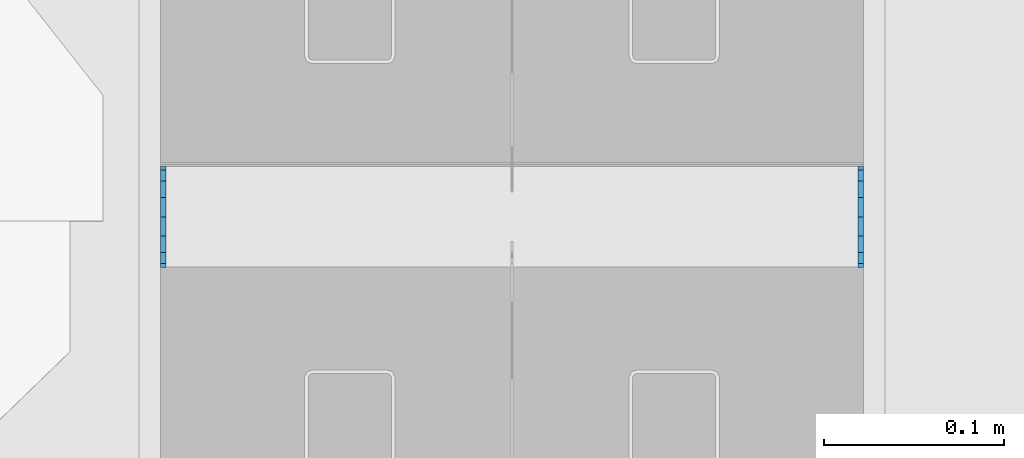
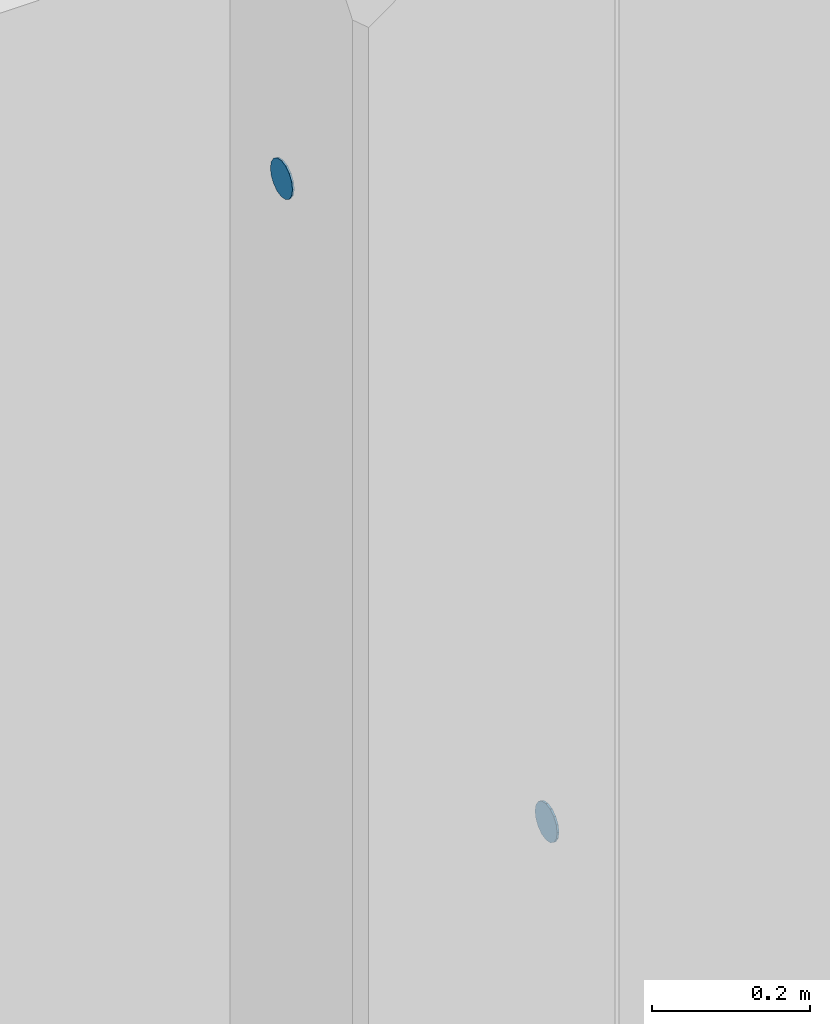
# One storey, part 80 of 186: 2 beams.
"""IFC4X3_ADD2 building model written with IfcOpenShell, lengths in millimetres."""

from ifc_helpers import new_model, si_unit, direction, frame, origin_with_axes, place, context, subcontext, project, spatial, indexed_curve, outline, extrude, material, element, save


model = new_model("IFC4X3_ADD2")

# Units and contexts
model_context = context("Model", 3, precision=1e-05, world=origin_with_axes(), true_north=direction((0.0, 1.0)))
body_context = subcontext(model_context, "Body", "Model", "MODEL_VIEW")
ifc_project = project(units=[si_unit("LENGTHUNIT", "METRE", prefix="MILLI"), si_unit("AREAUNIT", "SQUARE_METRE"), si_unit("VOLUMEUNIT", "CUBIC_METRE"), si_unit("PLANEANGLEUNIT", "RADIAN"), si_unit("TIMEUNIT", "SECOND"), si_unit("MASSUNIT", "GRAM")], contexts=[model_context])

# Site, building, storey
site_placement = place(None, origin_with_axes())
site = spatial("IfcSite", under=ifc_project, at=site_placement, Name="Site", CompositionType="ELEMENT")
building_placement = place(site_placement, origin_with_axes())
building = spatial("IfcBuilding", under=site, at=building_placement, Name="IFC Building Story")
storey_placement = place(building_placement, frame((0.0, 0.0, 4370.0), z_axis=(0.0, 0.0, 1.0), x_axis=(1.0, 0.0, 0.0)))
storey = spatial("IfcBuildingStorey", under=building, at=storey_placement, Name="ETAGE 10 (1)", Elevation=4370.0)

# Beams
ifc_material = material(Name="STEEL/Accessory 22919")
beam_1_placement = place(storey_placement, frame((40161.189, -8035.0, 840.0), z_axis=(-1.0, 0.0, 0.0), x_axis=(0.0, 0.5555702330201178, 0.8314696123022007)))
element("IfcBeam", 1, at=beam_1_placement, inside=storey, material=ifc_material, Name="TA4", ObjectType="D56", context=body_context, shape_type="SweptSolid", body=[
    extrude(outline(indexed_curve([(23.28114914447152, 15.55596652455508), (27.46198785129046, 5.462529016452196), (27.46198785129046, -5.462529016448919), (23.28114914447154, -15.55596652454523), (15.55596652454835, -23.28114914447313), (5.462529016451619, -27.46198785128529), (-5.462529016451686, -27.46198785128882), (-15.55596652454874, -23.28114914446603), (-23.2811491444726, -15.55596652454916), (-27.46198785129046, -5.462529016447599), (-27.46198785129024, 5.462529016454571), (-23.28114914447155, 15.55596652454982), (-15.55596652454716, 23.28114914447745), (-5.462529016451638, 27.46198785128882), (5.462529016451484, 27.46198785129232), (15.55596652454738, 23.28114914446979), (23.28114914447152, 15.55596652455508)])), origin_with_axes(), (0.0, 0.0, 1.0), 3.0),
])
beam_2_placement = place(storey_placement, frame((39774.18900000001, -8035.0, 1970.0), z_axis=(-1.0, 0.0, 0.0), x_axis=(0.0, 0.1950903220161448, 0.9807852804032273)))
element("IfcBeam", 2, at=beam_2_placement, inside=storey, material=ifc_material, Name="TA4", ObjectType="D56", context=body_context, shape_type="SweptSolid", body=[
    extrude(outline(indexed_curve([(23.28114914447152, 15.55596652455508), (27.46198785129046, 5.462529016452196), (27.46198785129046, -5.462529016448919), (23.28114914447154, -15.55596652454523), (15.55596652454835, -23.28114914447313), (5.462529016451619, -27.46198785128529), (-5.462529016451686, -27.46198785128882), (-15.55596652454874, -23.28114914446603), (-23.2811491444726, -15.55596652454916), (-27.46198785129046, -5.462529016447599), (-27.46198785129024, 5.462529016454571), (-23.28114914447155, 15.55596652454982), (-15.55596652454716, 23.28114914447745), (-5.462529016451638, 27.46198785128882), (5.462529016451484, 27.46198785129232), (15.55596652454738, 23.28114914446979), (23.28114914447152, 15.55596652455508)])), origin_with_axes(), (0.0, 0.0, 1.0), 3.000000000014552),
])

save(model, "model.ifc")
